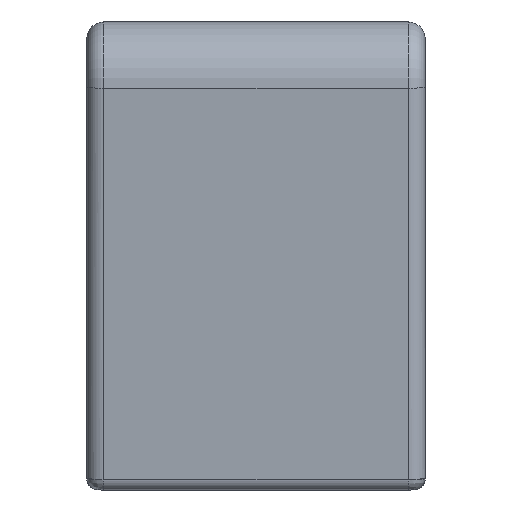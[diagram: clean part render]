
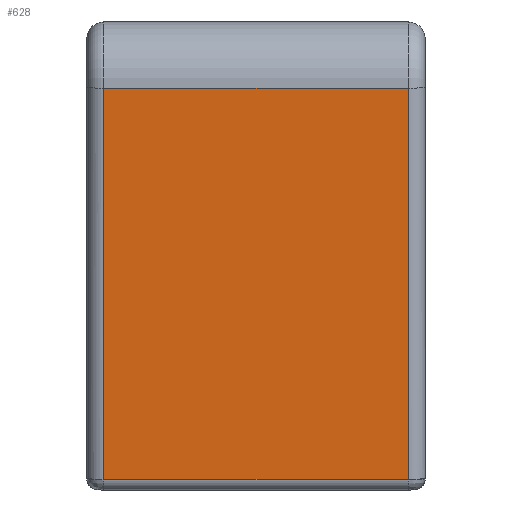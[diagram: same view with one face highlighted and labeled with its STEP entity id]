
A CAD part, left-side view. The second image highlights one B-rep face of the part: STEP entity #628.
In plain terms, the highlighted planar face has unit normal (-0.998, 0, -0.067).
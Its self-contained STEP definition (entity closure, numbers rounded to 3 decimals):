
#281 = EDGE_CURVE ( 'NONE', #3966, #3967, #421, .T. ) ;
#282 = EDGE_CURVE ( 'NONE', #3967, #3941, #428, .T. ) ;
#283 = EDGE_CURVE ( 'NONE', #3941, #3906, #429, .T. ) ;
#284 = EDGE_CURVE ( 'NONE', #3966, #3906, #400, .T. ) ;
#400 = LINE ( 'NONE', #4438, #433 ) ;
#405 = VECTOR ( 'NONE', #4433, 1000. ) ;
#421 = LINE ( 'NONE', #4432, #405 ) ;
#426 = VECTOR ( 'NONE', #4435, 1000. ) ;
#428 = LINE ( 'NONE', #4434, #426 ) ;
#429 = LINE ( 'NONE', #4436, #430 ) ;
#430 = VECTOR ( 'NONE', #4437, 1000. ) ;
#433 = VECTOR ( 'NONE', #4439, 1000. ) ;
#628 = ADVANCED_FACE ( 'NONE', ( #1781 ), #3323, .T. ) ;
#1357 = ORIENTED_EDGE ( 'NONE', *, *, #281, .T. ) ;
#1358 = ORIENTED_EDGE ( 'NONE', *, *, #282, .T. ) ;
#1359 = ORIENTED_EDGE ( 'NONE', *, *, #283, .T. ) ;
#1360 = ORIENTED_EDGE ( 'NONE', *, *, #284, .F. ) ;
#1481 = EDGE_LOOP ( 'NONE', ( #1357, #1358, #1359, #1360 ) ) ;
#1781 = FACE_OUTER_BOUND ( 'NONE', #1481, .T. ) ;
#3323 = PLANE ( 'NONE',  #3799 ) ;
#3324 = CARTESIAN_POINT ( 'NONE',  ( -193., 15., -7. ) ) ;
#3325 = DIRECTION ( 'NONE',  ( -0.998, 0., -0.067 ) ) ;
#3326 = DIRECTION ( 'NONE',  ( -0.067, 0., 0.998 ) ) ;
#3595 = CARTESIAN_POINT ( 'NONE',  ( -195.388, -13.5, 28.632 ) ) ;
#3630 = CARTESIAN_POINT ( 'NONE',  ( -193.063, -13.5, -6.067 ) ) ;
#3655 = CARTESIAN_POINT ( 'NONE',  ( -195.388, 13.5, 28.632 ) ) ;
#3656 = CARTESIAN_POINT ( 'NONE',  ( -193.063, 13.5, -6.067 ) ) ;
#3799 = AXIS2_PLACEMENT_3D ( 'NONE', #3324, #3325, #3326 ) ;
#3906 = VERTEX_POINT ( 'NONE', #3595 ) ;
#3941 = VERTEX_POINT ( 'NONE', #3630 ) ;
#3966 = VERTEX_POINT ( 'NONE', #3655 ) ;
#3967 = VERTEX_POINT ( 'NONE', #3656 ) ;
#4432 = CARTESIAN_POINT ( 'NONE',  ( -193., 13.5, -7. ) ) ;
#4433 = DIRECTION ( 'NONE',  ( 0.067, 0., -0.998 ) ) ;
#4434 = CARTESIAN_POINT ( 'NONE',  ( -193.063, 15., -6.067 ) ) ;
#4435 = DIRECTION ( 'NONE',  ( 0., -1., 0. ) ) ;
#4436 = CARTESIAN_POINT ( 'NONE',  ( -195.388, -13.5, 28.632 ) ) ;
#4437 = DIRECTION ( 'NONE',  ( -0.067, 0., 0.998 ) ) ;
#4438 = CARTESIAN_POINT ( 'NONE',  ( -195.388, 15., 28.632 ) ) ;
#4439 = DIRECTION ( 'NONE',  ( 0., -1., 0. ) ) ;
